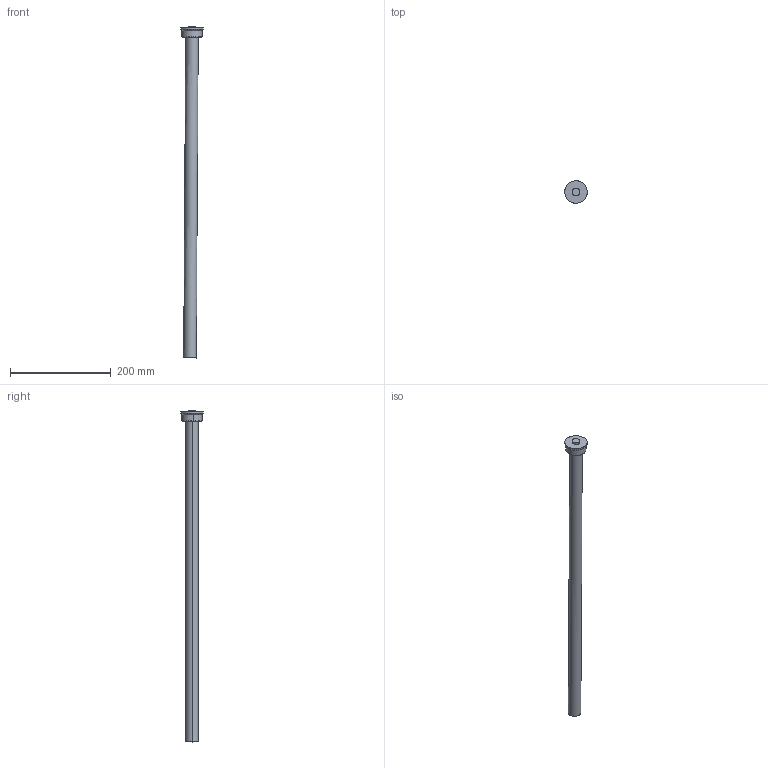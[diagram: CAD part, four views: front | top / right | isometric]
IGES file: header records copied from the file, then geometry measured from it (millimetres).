
Start section: SolidWorks IGES file using analytic representation for surfaces
Global section: file name: C:\Data\SAP_DOC_20200123_IRB390\Lättmodeller_IRB390\Final_4axis\IRB390_15kg_1300_STD_rev0_IGES_J\IRB390_X_1300_STD_4D_UT_00.IGS; native system: SolidWorks 2018; preprocessor: SolidWorks 2018; author: sestdan2; date: 200204.155243; units: millimetre
Bounding box: 45.01 x 44.99 x 660.24 mm (x, y, z)
Surface area: 55617.2 mm2 (no closed solid volume)
Topology: 0 solids, 0 shells, 16 faces, 304 edges, 304 vertices
Faces by surface type: revolution 12, bspline 4
